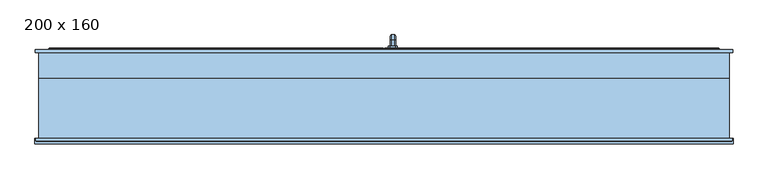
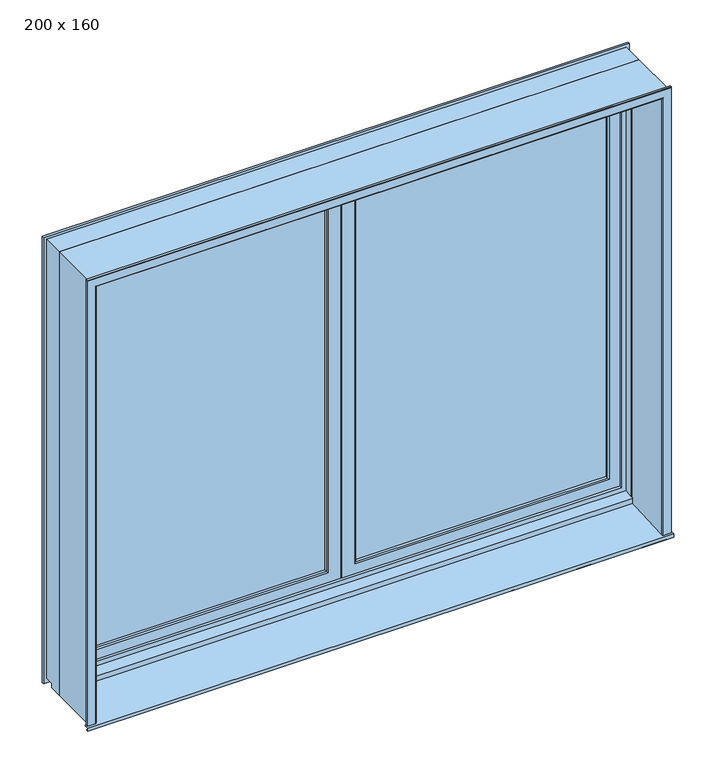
"""IFC4 building model written with IfcOpenShell, lengths in millimetres: window geometry, 2 Vantaux : 200 x 160."""

from ifc_helpers import new_model, si_unit, frame, origin, place, context, project, spatial, polyline, outline, extrude, faceted_brep, source, transform, mapped, element, save


def window_200_x_160_3bbd1c25(model_context):
    return source(origin(), model_context, "Body", "SolidModel", [
        faceted_brep([(30.9590356, 143.0471229, 1308.0), (20.9232154, 143.0471229, 1308.0), (17.9411255, 143.0471229, 1305.0179101), (17.9411255, 143.0471229, 1294.9820899), (20.9232154, 143.0471229, 1292.0), (30.9590356, 143.0471229, 1292.0), (33.9411255, 143.0471229, 1294.9820899), (33.9411255, 143.0471229, 1305.0179101), (33.9411255, 160.9442146, 1305.0179101), (30.9590356, 162.665925, 1308.0), (33.9411255, 155.1500311, 1294.9820899), (33.9411255, 163.0292127, 1281.334947), (33.9411255, 163.0292127, 1201.9658946), (33.9411255, 173.065033, 1201.9658946), (33.9411255, 173.065033, 1284.0240369), (30.9590356, 153.4283207, 1292.0), (20.9232154, 153.4283207, 1292.0), (17.9411255, 155.1500311, 1294.9820899), (17.9411255, 160.9442146, 1305.0179101), (17.9411255, 173.065033, 1284.0240369), (17.9411255, 173.065033, 1201.9658946), (17.9411255, 163.0292127, 1201.9658946), (17.9411255, 163.0292127, 1281.334947), (20.9232154, 162.665925, 1308.0), (30.9590356, 176.0471229, 1284.8230855), (30.9590356, 160.0471229, 1280.5358984), (20.9232154, 160.0471229, 1280.5358984), (20.9232154, 176.0471229, 1284.8230855), (21.7375155, 174.0812283, 1200.0), (30.1447355, 174.0812283, 1200.0), (31.9752309, 172.2507328, 1200.0), (31.9752309, 163.8435129, 1200.0), (30.1447355, 162.0130174, 1200.0), (21.7375155, 162.0130174, 1200.0), (19.90702, 163.8435129, 1200.0), (19.90702, 172.2507328, 1200.0), (30.9590356, 176.0471229, 1201.9658946), (30.9590356, 160.0471229, 1201.9658946), (20.9232154, 160.0471229, 1201.9658946), (20.9232154, 176.0471229, 1201.9658946)], [[[0, 1, 2, 3, 4, 5, 6, 7]], [[7, 8, 9, 0]], [[6, 10, 11, 12, 13, 14, 8, 7]], [[5, 15, 10, 6]], [[4, 16, 15, 5]], [[3, 17, 16, 4]], [[2, 18, 19, 20, 21, 22, 17, 3]], [[1, 23, 18, 2]], [[0, 9, 23, 1]], [[8, 14, 24, 9]], [[10, 15, 25, 11]], [[16, 26, 25, 15]], [[17, 22, 26, 16]], [[18, 23, 27, 19]], [[9, 24, 27, 23]], [[28, 29, 30, 31, 32, 33, 34, 35]], [[14, 13, 36, 24]], [[25, 37, 12, 11]], [[26, 38, 37, 25]], [[22, 21, 38, 26]], [[27, 39, 20, 19]], [[24, 36, 39, 27]], [[20, 39, 28, 35]], [[35, 34, 21, 20]], [[34, 33, 38, 21]], [[33, 32, 37, 38]], [[32, 31, 12, 37]], [[31, 30, 13, 12]], [[30, 29, 36, 13]], [[39, 36, 29, 28]]]),
        extrude(outline(polyline([(1270.0, 33.9411255), (1275.0, 38.9411255), (1325.0, 38.9411255), (1330.0, 33.9411255), (1330.0, 17.9411255), (1325.0, 12.9411255), (1275.0, 12.9411255), (1270.0, 17.9411255), (1270.0, 33.9411255)])), frame((0.0, 138.0471229, 0.0), z_axis=(0.0, 1.0, 0.0), x_axis=(0.0, 0.0, 1.0)), (0.0, 0.0, 1.0), 5.0),
        faceted_brep([(920.0, 99.0588745, 2320.0), (920.0, 99.0588745, 873.5), (924.0588745, 95.0, 869.4411255), (924.0588745, 95.0, 2324.0588745), (968.5, 95.0, 2368.5), (1.5, 95.0, 2368.5), (1.5, 95.0, 825.0), (968.5, 95.0, 825.0), (45.9411255, 95.0, 2324.0588745), (45.9411255, 95.0, 869.4411255), (50.0, 99.0588745, 873.5), (920.0, 108.5235614, 2320.0), (920.0, 108.5235614, 873.5), (50.0, 108.5235614, 873.5), (44.0, 108.5235614, 2326.0), (926.0, 108.5235614, 2326.0), (926.0, 108.5235614, 867.5), (44.0, 108.5235614, 867.5), (50.0, 108.5235614, 2320.0), (926.0, 124.5235614, 2326.0), (926.0, 124.5235614, 867.5), (44.0, 124.5235614, 867.5), (44.0, 124.5235614, 2326.0), (50.0, 124.5235614, 2320.0), (920.0, 124.5235614, 2320.0), (920.0, 124.5235614, 873.5), (50.0, 124.5235614, 873.5), (920.0, 133.9882484, 2320.0), (920.0, 133.9882484, 873.5), (50.0, 133.9882484, 873.5), (924.0588745, 138.0471229, 2324.0588745), (924.0588745, 138.0471229, 869.4411255), (45.9411255, 138.0471229, 869.4411255), (1.5, 138.0471229, 2368.5), (968.5, 138.0471229, 2368.5), (968.5, 138.0471229, 825.0), (1.5, 138.0471229, 825.0), (45.9411255, 138.0471229, 2324.0588745), (970.0, 96.5, 2370.0), (970.0, 96.5, 823.5), (970.0, 136.5471229, 823.5), (970.0, 136.5471229, 2370.0), (0.0, 96.5, 823.5), (0.0, 136.5471229, 823.5), (50.0, 99.0588745, 2320.0), (50.0, 133.9882484, 2320.0), (0.0, 96.5, 2370.0), (0.0, 136.5471229, 2370.0)], [[[0, 1, 2, 3]], [[4, 5, 6, 7], [8, 3, 2, 9]], [[1, 10, 9, 2]], [[11, 12, 1, 0]], [[12, 13, 10, 1]], [[14, 15, 16, 17], [11, 18, 13, 12]], [[19, 20, 16, 15]], [[20, 21, 17, 16]], [[19, 22, 21, 20], [23, 24, 25, 26]], [[27, 28, 25, 24]], [[28, 29, 26, 25]], [[30, 31, 28, 27]], [[31, 32, 29, 28]], [[33, 34, 35, 36], [30, 37, 32, 31]], [[38, 39, 40, 41]], [[41, 40, 35, 34]], [[39, 42, 43, 40]], [[4, 7, 39, 38]], [[10, 44, 8, 9]], [[13, 18, 44, 10]], [[21, 22, 14, 17]], [[29, 45, 23, 26]], [[32, 37, 45, 29]], [[40, 43, 36, 35]], [[42, 46, 47, 43]], [[7, 6, 42, 39]], [[6, 5, 46, 42]], [[43, 47, 33, 36]], [[44, 0, 3, 8]], [[18, 11, 0, 44]], [[22, 19, 15, 14]], [[45, 27, 24, 23]], [[37, 30, 27, 45]], [[46, 38, 41, 47]], [[5, 4, 38, 46]], [[47, 41, 34, 33]]]),
        faceted_brep([(-975.6755267, 45.0, 813.8687943), (-975.6755267, 50.0, 814.2950679), (-975.6755267, 50.0, 800.0), (-975.6755267, 47.0, 800.0), (-975.6755267, 47.0, 795.0), (-975.6755267, 45.0, 795.0), (975.6755267, 45.0, 795.0), (975.6755267, 45.0, 813.8687943), (975.6755267, 47.0, 795.0), (975.6755267, 47.0, 800.0), (-975.0, 50.6755267, 800.0), (-975.0, 85.0, 800.0), (-960.0, 85.0, 800.0), (-960.0, 95.0, 800.0), (-1000.0, 95.0, 800.0), (-1000.0, 125.0, 800.0), (1000.0, 125.0, 800.0), (1000.0, 95.0, 800.0), (960.0, 95.0, 800.0), (960.0, 85.0, 800.0), (975.0, 85.0, 800.0), (975.0, 50.6755267, 800.0), (975.6755267, 50.0, 800.0), (-975.6755267, 50.0, 783.5), (-975.6755267, 50.0, 2375.6755267), (975.6755267, 50.0, 2375.6755267), (975.6755267, 50.0, 814.2950679), (975.6755267, 50.0, 783.5), (1000.0, 50.0, 783.5), (1000.0, 50.0, 2400.0), (-1000.0, 50.0, 2400.0), (-1000.0, 50.0, 783.5), (975.0, 50.6755267, 814.3526597), (975.0, 85.0, 817.278983), (-975.0, 85.0, 817.278983), (-975.0, 50.6755267, 814.3526597), (-1010.0, 125.0, 783.5), (1010.0, 125.0, 783.5), (1010.0, 125.0, 2410.0), (-1010.0, 125.0, 2410.0), (-1000.0, 125.0, 2400.0), (1000.0, 125.0, 2400.0), (-1010.0, 133.0, 2410.0), (-1010.0, 133.0, 783.5), (1010.0, 133.0, 783.5), (1010.0, 133.0, 2410.0), (-1000.0, 95.0, 783.5), (-960.0, 95.0, 783.5), (-960.0, 85.0, 783.5), (-975.0, 85.0, 783.5), (-975.0, 50.6755267, 783.5), (975.0, 50.6755267, 783.5), (975.0, 85.0, 783.5), (960.0, 85.0, 783.5), (960.0, 95.0, 783.5), (1000.0, 95.0, 783.5), (-970.0, 133.0, 2370.0), (-970.0, 133.0, 823.5), (970.0, 133.0, 823.5), (970.0, 133.0, 2370.0), (970.0, 95.0, 823.5), (970.0, 95.0, 2370.0), (-970.0, 95.0, 823.5), (-970.0, 95.0, 2370.0), (-960.0, 95.0, 2360.0), (-960.0, 95.0, 833.5), (960.0, 95.0, 833.5), (960.0, 95.0, 2360.0), (960.0, 85.0, 833.5), (960.0, 85.0, 2360.0), (-960.0, 85.0, 833.5), (-960.0, 85.0, 2360.0), (-975.0, 85.0, 2375.0), (975.0, 85.0, 2375.0), (-975.0, 50.6755267, 2375.0), (975.0, 50.6755267, 2375.0)], [[[0, 1, 2, 3, 4, 5]], [[5, 6, 7, 0]], [[4, 8, 6, 5]], [[3, 9, 8, 4]], [[3, 2, 10, 11, 12, 13, 14, 15, 16, 17, 18, 19, 20, 21, 22, 9]], [[23, 2, 1, 24, 25, 26, 22, 27, 28, 29, 30, 31]], [[7, 26, 32, 33, 34, 35, 1, 0]], [[9, 22, 26, 7, 6, 8]], [[36, 37, 38, 39], [16, 15, 40, 41]], [[36, 39, 42, 43]], [[37, 44, 45, 38]], [[23, 31, 46, 47, 48, 49, 50]], [[43, 44, 37, 36]], [[27, 51, 52, 53, 54, 55, 28]], [[28, 55, 17, 16, 41, 29]], [[40, 15, 14, 46, 31, 30]], [[44, 43, 42, 45], [56, 57, 58, 59]], [[59, 58, 60, 61]], [[57, 62, 60, 58]], [[63, 62, 57, 56]], [[47, 46, 14, 13]], [[55, 54, 18, 17]], [[61, 60, 62, 63], [64, 65, 66, 67]], [[67, 66, 68, 69]], [[53, 19, 18, 54]], [[65, 70, 68, 66]], [[47, 13, 12, 48]], [[71, 70, 65, 64]], [[48, 12, 11, 49]], [[72, 34, 33, 73], [69, 68, 70, 71]], [[52, 20, 19, 53]], [[49, 11, 10, 50]], [[74, 35, 34, 72]], [[73, 33, 32, 75]], [[51, 21, 20, 52]], [[24, 1, 35, 74]], [[50, 10, 2, 23]], [[27, 22, 21, 51]], [[75, 32, 26, 25]], [[30, 29, 41, 40]], [[72, 73, 75, 74]], [[71, 64, 67, 69]], [[63, 56, 59, 61]], [[38, 45, 42, 39]], [[24, 74, 75, 25]]]),
        extrude(outline(polyline([(-926.0, 108.5), (-926.0, 124.5), (-44.0, 124.5), (-44.0, 108.5), (-926.0, 108.5)])), frame((0.0, 0.0, 867.5), z_axis=(0.0, 0.0, 1.0), x_axis=(1.0, 0.0, 0.0)), (0.0, 0.0, 1.0), 1458.5),
        extrude(outline(polyline([(44.0, 108.5), (44.0, 124.5), (926.0, 124.5), (926.0, 108.5), (44.0, 108.5)])), frame((0.0, 0.0, 867.5), z_axis=(0.0, 0.0, 1.0), x_axis=(1.0, 0.0, 0.0)), (0.0, 0.0, 1.0), 1458.5),
        faceted_brep([(0.0, 96.5, 2370.0), (0.0, 96.5, 823.5), (0.0, 136.5471229, 823.5), (0.0, 136.5471229, 2370.0), (-1.5, 138.0471229, 825.0), (-1.5, 138.0471229, 2368.5), (-970.0, 96.5, 823.5), (-970.0, 136.5471229, 823.5), (-1.5, 95.0, 2368.5), (-1.5, 95.0, 825.0), (-45.9411255, 138.0471229, 2324.0588745), (-45.9411255, 138.0471229, 869.4411255), (-50.0, 133.9882484, 873.5), (-50.0, 133.9882484, 2320.0), (-50.0, 124.5235614, 873.5), (-50.0, 124.5235614, 2320.0), (-924.0588745, 138.0471229, 869.4411255), (-920.0, 133.9882484, 873.5), (-968.5, 138.0471229, 825.0), (-968.5, 138.0471229, 2368.5), (-924.0588745, 138.0471229, 2324.0588745), (-44.0, 124.5235614, 867.5), (-44.0, 124.5235614, 2326.0), (-926.0, 124.5235614, 2326.0), (-926.0, 124.5235614, 867.5), (-920.0, 124.5235614, 873.5), (-920.0, 124.5235614, 2320.0), (-44.0, 108.5235614, 867.5), (-44.0, 108.5235614, 2326.0), (-926.0, 108.5235614, 867.5), (-926.0, 108.5235614, 2326.0), (-50.0, 108.5235614, 873.5), (-50.0, 108.5235614, 2320.0), (-920.0, 108.5235614, 2320.0), (-920.0, 108.5235614, 873.5), (-50.0, 99.0588745, 873.5), (-50.0, 99.0588745, 2320.0), (-45.9411255, 95.0, 869.4411255), (-45.9411255, 95.0, 2324.0588745), (-920.0, 99.0588745, 873.5), (-968.5, 95.0, 2368.5), (-968.5, 95.0, 825.0), (-924.0588745, 95.0, 869.4411255), (-924.0588745, 95.0, 2324.0588745), (-970.0, 96.5, 2370.0), (-970.0, 136.5471229, 2370.0), (-920.0, 133.9882484, 2320.0), (-920.0, 99.0588745, 2320.0)], [[[0, 1, 2, 3]], [[3, 2, 4, 5]], [[1, 6, 7, 2]], [[8, 9, 1, 0]], [[10, 11, 12, 13]], [[13, 12, 14, 15]], [[11, 16, 17, 12]], [[5, 4, 18, 19], [11, 10, 20, 16]], [[21, 22, 23, 24], [15, 14, 25, 26]], [[12, 17, 25, 14]], [[22, 21, 27, 28]], [[28, 27, 29, 30], [31, 32, 33, 34]], [[21, 24, 29, 27]], [[32, 31, 35, 36]], [[36, 35, 37, 38]], [[31, 34, 39, 35]], [[9, 8, 40, 41], [38, 37, 42, 43]], [[35, 39, 42, 37]], [[2, 7, 18, 4]], [[6, 44, 45, 7]], [[9, 41, 6, 1]], [[16, 20, 46, 17]], [[17, 46, 26, 25]], [[24, 23, 30, 29]], [[34, 33, 47, 39]], [[39, 47, 43, 42]], [[7, 45, 19, 18]], [[41, 40, 44, 6]], [[47, 36, 38, 43]], [[33, 32, 36, 47]], [[23, 22, 28, 30]], [[46, 13, 15, 26]], [[20, 10, 13, 46]], [[44, 0, 3, 45]], [[40, 8, 0, 44]], [[45, 3, 5, 19]]]),
        faceted_brep([(1010.6755267, -125.0, 784.2945446), (1010.6755267, -140.0, 783.5020918), (1010.6755267, -140.0, 771.0), (1010.6755267, -133.5, 771.0), (1010.6755267, -133.5, 772.5), (1010.6755267, -138.5, 772.5), (1010.6755267, -138.5, 782.0792453), (1010.6755267, -125.0, 782.7924528), (975.6755267, -125.0, 782.7924528), (975.6755267, -125.0, 783.5), (1000.0, -125.0, 783.5), (1000.0, -125.0, 2400.0), (-1000.0, -125.0, 2400.0), (-1000.0, -125.0, 783.5), (-975.6755267, -125.0, 783.5), (-975.6755267, -125.0, 782.7924528), (-1010.6755267, -125.0, 782.7924528), (-1010.6755267, -125.0, 784.2945446), (-1008.0, -125.0, 784.2945446), (-1008.0, -125.0, 2408.0), (1008.0, -125.0, 2408.0), (1008.0, -125.0, 784.2945446), (-1010.6755267, -138.5, 782.0792453), (-975.6755267, -111.6071429, 783.5), (-975.6755267, 50.0, 792.0377358), (-975.6755267, 60.0, 792.5660377), (975.6755267, 60.0, 792.5660377), (975.6755267, 50.0, 792.0377358), (975.6755267, -111.6071429, 783.5), (-1010.6755267, -138.5, 772.5), (-1010.6755267, -133.5, 772.5), (-1010.6755267, -133.5, 771.0), (-1010.6755267, -140.0, 771.0), (-1010.6755267, -140.0, 783.5020918), (1008.0, -131.1421356, 783.9700545), (1006.1421356, -133.0, 783.8719031), (978.8578644, -133.0, 783.8719031), (975.6755267, -129.8176624, 784.0400266), (975.6755267, -125.0, 784.2945446), (975.6755267, 50.0, 793.5398277), (975.6755267, 58.5, 793.9888843), (-975.6755267, 58.5, 793.9888843), (-975.6755267, 50.0, 793.5398277), (-975.6755267, -125.0, 784.2945446), (-975.6755267, -129.8176624, 784.0400266), (-978.8578644, -133.0, 783.8719031), (-1006.1421356, -133.0, 783.8719031), (-1008.0, -131.1421356, 783.9700545), (1008.0, -131.1421356, 2408.0), (-1008.0, -131.1421356, 2408.0), (-975.6755267, 58.5, 797.4781943), (-975.6755267, 60.0, 797.4781943), (-975.6755267, 50.0, 783.5), (-1000.0, 50.0, 783.5), (-1000.0, 50.0, 2400.0), (1000.0, 50.0, 2400.0), (1000.0, 50.0, 783.5), (975.6755267, 50.0, 783.5), (975.6755267, 60.0, 797.4781943), (975.6755267, 58.5, 797.4781943), (975.6755267, 50.0, 2375.6755267), (975.6755267, -129.8176624, 2375.6755267), (-975.6755267, -129.8176624, 2375.6755267), (-975.6755267, 50.0, 2375.6755267), (-1006.1421356, -133.0, 2406.1421356), (-978.8578644, -133.0, 2378.8578644), (978.8578644, -133.0, 2378.8578644), (1006.1421356, -133.0, 2406.1421356)], [[[0, 1, 2, 3, 4, 5, 6, 7]], [[7, 8, 9, 10, 11, 12, 13, 14, 15, 16, 17, 18, 19, 20, 21, 0]], [[6, 22, 16, 15, 23, 24, 25, 26, 27, 28, 8, 7]], [[5, 29, 22, 6]], [[4, 30, 29, 5]], [[3, 31, 30, 4]], [[2, 32, 31, 3]], [[1, 33, 32, 2]], [[0, 21, 34, 35, 36, 37, 38, 39, 40, 41, 42, 43, 44, 45, 46, 47, 18, 17, 33, 1]], [[48, 34, 21, 20]], [[19, 18, 47, 49]], [[33, 17, 16, 22, 29, 30, 31, 32]], [[25, 24, 42, 41, 50, 51]], [[14, 23, 15]], [[52, 23, 14, 13, 53]], [[12, 54, 53, 13]], [[55, 11, 10, 56]], [[56, 10, 9, 28, 57]], [[8, 28, 9]], [[40, 39, 27, 26, 58, 59]], [[57, 28, 27]], [[60, 39, 38, 37, 61]], [[51, 58, 26, 25]], [[62, 44, 43, 42, 63]], [[52, 24, 23]], [[49, 47, 46, 64]], [[64, 46, 45, 65, 66, 36, 35, 67]], [[65, 45, 44, 62]], [[41, 40, 59, 50]], [[61, 37, 36, 66]], [[67, 35, 34, 48]], [[50, 59, 58, 51]], [[53, 54, 55, 56, 57, 27, 39, 60, 63, 42, 24, 52]], [[54, 12, 11, 55]], [[19, 49, 48, 20]], [[64, 67, 48, 49]], [[65, 62, 61, 66]], [[60, 61, 62, 63]]]),
        extrude(outline(polyline([(60.0, 800.0), (95.0, 800.0), (95.0, 765.0), (-85.0, 765.0), (-85.0, 784.9056604), (60.0, 792.5660377), (60.0, 800.0)])), frame((-975.6755267, 0.0, 0.0), z_axis=(1.0, 0.0, 0.0), x_axis=(0.0, 1.0, 0.0)), (0.0, 0.0, 1.0), 1951.3510535),
    ])


if __name__ == "__main__":
    model = new_model("IFC4")
    model_context = context("Model", 3, world=origin())
    ifc_project = project(units=[si_unit("LENGTHUNIT", "METRE", prefix="MILLI")], contexts=[model_context])
    site = spatial("IfcSite", under=ifc_project)
    building = spatial("IfcBuilding", under=site)
    placement = place(None, origin())
    window_200_x_160_shape = window_200_x_160_3bbd1c25(model_context)
    element("IfcWindow", 1, ObjectType="2 Vantaux : 200 x 160", at=placement, inside=building, context=model_context, shape_type="MappedRepresentation", body=[
        mapped(window_200_x_160_shape, transform((0.0, 0.0, 0.0), x_axis=(1.0, 0.0, 0.0), y_axis=(0.0, 1.0, 0.0), z_axis=(0.0, 0.0, 1.0))),
    ])
    save(model, "model.ifc")
